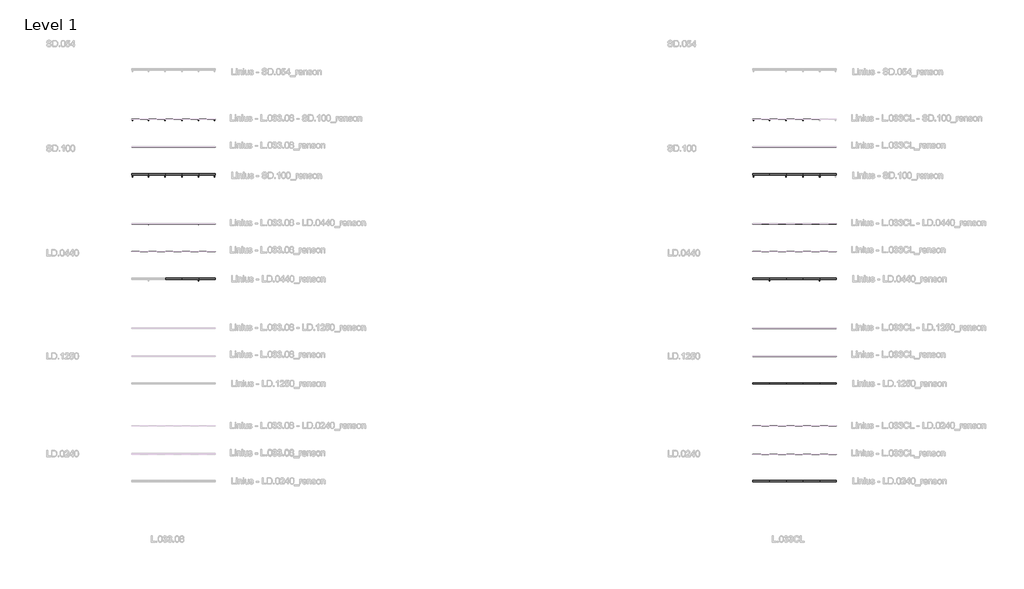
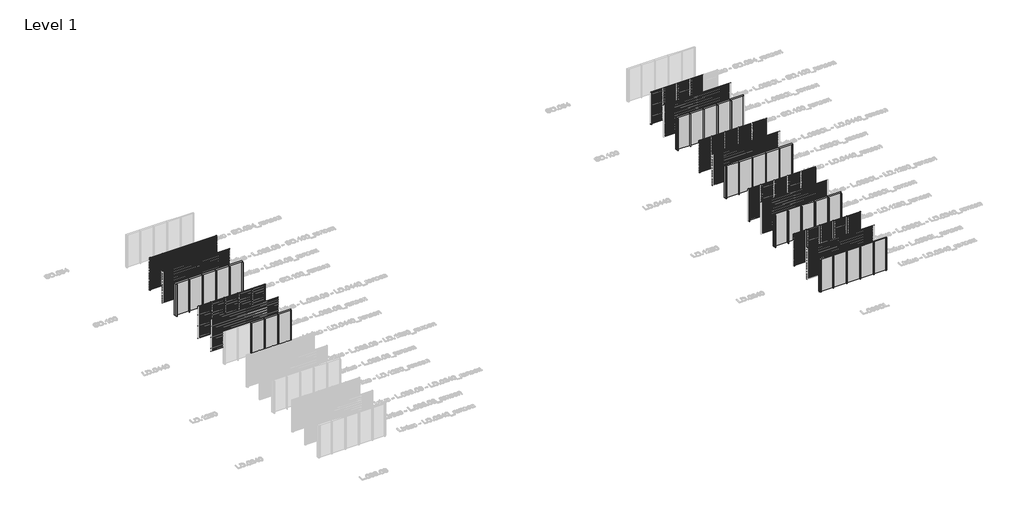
# One storey, part 5 of 507: 66 members, 63 plates.
"""IFC4 building model written with IfcOpenShell, lengths in millimetres."""

from ifc_helpers import new_model, si_unit, origin, origin_with_axes, place, context, project, spatial, polyline, outline, extrude, transform, mapped, element, save
from components import rectangular_mullion_8b77bd57, rectangular_mullion_2c867e25, rectangular_mullion_7803f5c4, rectangular_mullion_82152e2f, rectangular_mullion_6132f1f1, rectangular_mullion_8f153c19, rectangular_mullion_5b30f3fd, rectangular_mullion_5e0e8e0a, rectangular_mullion_d2d38772, rectangular_mullion_efb80f74, rectangular_mullion_aaa1fb1b, rectangular_mullion_ea9d012c, empty_system_panel_empty_aabbdda4

model = new_model("IFC4")

# Units and contexts
model_context = context("Model", 3, world=origin())
ifc_project = project(units=[si_unit("LENGTHUNIT", "METRE", prefix="MILLI")], contexts=[model_context])

# Site, building, storey
site = spatial("IfcSite", under=ifc_project)
building = spatial("IfcBuilding", under=site)
storey = spatial("IfcBuildingStorey", under=building, Name="Level 1", Elevation=0.0)

# Members
placement = place(None, origin())
rectangular_mullion_shape = rectangular_mullion_8b77bd57(model_context)
element("IfcMember", 1, ObjectType="Rectangular Mullion : SD.100_renson", at=placement, inside=storey, context=model_context, shape_type="MappedRepresentation", body=[
    mapped(rectangular_mullion_shape, transform((136366.6208097, 24981.0540136, 0.0), x_axis=(-1.0, 0.0, 0.0), y_axis=(0.0, 1.0, 0.0), z_axis=(0.0, 0.0, -1.0))),
])
element("IfcMember", 2, ObjectType="Rectangular Mullion : SD.100_renson", at=placement, inside=storey, context=model_context, shape_type="MappedRepresentation", body=[
    mapped(rectangular_mullion_shape, transform((135166.6208099, 24981.0540136, 0.0), x_axis=(-1.0, 0.0, 0.0), y_axis=(0.0, 1.0, 0.0), z_axis=(0.0, 0.0, -1.0))),
])
element("IfcMember", 3, ObjectType="Rectangular Mullion : SD.100_renson", at=placement, inside=storey, context=model_context, shape_type="MappedRepresentation", body=[
    mapped(rectangular_mullion_shape, transform((137566.6208096, 24981.0540136, 0.0), x_axis=(-1.0, 0.0, 0.0), y_axis=(0.0, 1.0, 0.0), z_axis=(0.0, 0.0, -1.0))),
])
element("IfcMember", 4, ObjectType="Rectangular Mullion : SD.100_renson", at=placement, inside=storey, context=model_context, shape_type="MappedRepresentation", body=[
    mapped(rectangular_mullion_shape, transform((138766.6208095, 24981.0540136, 0.0), x_axis=(-1.0, 0.0, 0.0), y_axis=(0.0, 1.0, 0.0), z_axis=(0.0, 0.0, -1.0))),
])
element("IfcMember", 5, ObjectType="Rectangular Mullion : SD.100_renson", at=placement, inside=storey, context=model_context, shape_type="MappedRepresentation", body=[
    mapped(rectangular_mullion_shape, transform((138766.6208095, 29024.0540136, 0.0), x_axis=(-1.0, 0.0, 0.0), y_axis=(0.0, 1.0, 0.0), z_axis=(0.0, 0.0, -1.0))),
])
element("IfcMember", 6, ObjectType="Rectangular Mullion : SD.100_renson", at=placement, inside=storey, context=model_context, shape_type="MappedRepresentation", body=[
    mapped(rectangular_mullion_shape, transform((137566.6208096, 29024.0540136, 0.0), x_axis=(-1.0, 0.0, 0.0), y_axis=(0.0, 1.0, 0.0), z_axis=(0.0, 0.0, -1.0))),
])
element("IfcMember", 7, ObjectType="Rectangular Mullion : SD.100_renson", at=placement, inside=storey, context=model_context, shape_type="MappedRepresentation", body=[
    mapped(rectangular_mullion_shape, transform((136366.6208097, 29024.0540136, 0.0), x_axis=(-1.0, 0.0, 0.0), y_axis=(0.0, 1.0, 0.0), z_axis=(0.0, 0.0, -1.0))),
])
element("IfcMember", 8, ObjectType="Rectangular Mullion : SD.100_renson", at=placement, inside=storey, context=model_context, shape_type="MappedRepresentation", body=[
    mapped(rectangular_mullion_shape, transform((135166.6208099, 29024.0540136, 0.0), x_axis=(-1.0, 0.0, 0.0), y_axis=(0.0, 1.0, 0.0), z_axis=(0.0, 0.0, -1.0))),
])
element("IfcMember", 9, ObjectType="Rectangular Mullion : SD.100_renson", at=placement, inside=storey, context=model_context, shape_type="MappedRepresentation", body=[
    mapped(rectangular_mullion_shape, transform((182066.6208097, 29025.0540136, 0.0), x_axis=(-1.0, 0.0, 0.0), y_axis=(0.0, 1.0, 0.0), z_axis=(0.0, 0.0, -1.0))),
])
element("IfcMember", 10, ObjectType="Rectangular Mullion : SD.100_renson", at=placement, inside=storey, context=model_context, shape_type="MappedRepresentation", body=[
    mapped(rectangular_mullion_shape, transform((180866.6208097, 29025.0540136, 0.0), x_axis=(-1.0, 0.0, 0.0), y_axis=(0.0, 1.0, 0.0), z_axis=(0.0, 0.0, -1.0))),
])
element("IfcMember", 11, ObjectType="Rectangular Mullion : SD.100_renson", at=placement, inside=storey, context=model_context, shape_type="MappedRepresentation", body=[
    mapped(rectangular_mullion_shape, transform((179666.6208097, 29025.0540136, 0.0), x_axis=(-1.0, 0.0, 0.0), y_axis=(0.0, 1.0, 0.0), z_axis=(0.0, 0.0, -1.0))),
])
element("IfcMember", 12, ObjectType="Rectangular Mullion : SD.100_renson", at=placement, inside=storey, context=model_context, shape_type="MappedRepresentation", body=[
    mapped(rectangular_mullion_shape, transform((180866.6208097, 24981.0540136, 0.0), x_axis=(-1.0, 0.0, 0.0), y_axis=(0.0, 1.0, 0.0), z_axis=(0.0, 0.0, -1.0))),
])
element("IfcMember", 13, ObjectType="Rectangular Mullion : SD.100_renson", at=placement, inside=storey, context=model_context, shape_type="MappedRepresentation", body=[
    mapped(rectangular_mullion_shape, transform((179666.6208099, 24981.0540136, 0.0), x_axis=(-1.0, 0.0, 0.0), y_axis=(0.0, 1.0, 0.0), z_axis=(0.0, 0.0, -1.0))),
])
element("IfcMember", 14, ObjectType="Rectangular Mullion : SD.100_renson", at=placement, inside=storey, context=model_context, shape_type="MappedRepresentation", body=[
    mapped(rectangular_mullion_shape, transform((182066.6208096, 24981.0540136, 0.0), x_axis=(-1.0, 0.0, 0.0), y_axis=(0.0, 1.0, 0.0), z_axis=(0.0, 0.0, -1.0))),
])
element("IfcMember", 15, ObjectType="Rectangular Mullion : SD.100_renson", at=placement, inside=storey, context=model_context, shape_type="MappedRepresentation", body=[
    mapped(rectangular_mullion_shape, transform((183266.6208095, 24981.0540136, 0.0), x_axis=(-1.0, 0.0, 0.0), y_axis=(0.0, 1.0, 0.0), z_axis=(0.0, 0.0, -1.0))),
])
rectangular_mullion_2_shape = rectangular_mullion_2c867e25(model_context)
element("IfcMember", 16, ObjectType="Rectangular Mullion : LD.0440_renson", at=placement, inside=storey, context=model_context, shape_type="MappedRepresentation", body=[
    mapped(rectangular_mullion_2_shape, transform((136366.6208097, 17481.0540136, 0.0), x_axis=(-1.0, 0.0, 0.0), y_axis=(0.0, 1.0, 0.0), z_axis=(0.0, 0.0, -1.0))),
])
element("IfcMember", 17, ObjectType="Rectangular Mullion : LD.0440_renson", at=placement, inside=storey, context=model_context, shape_type="MappedRepresentation", body=[
    mapped(rectangular_mullion_2_shape, transform((137566.6208096, 17481.0540136, 0.0), x_axis=(-1.0, 0.0, 0.0), y_axis=(0.0, 1.0, 0.0), z_axis=(0.0, 0.0, -1.0))),
])
element("IfcMember", 18, ObjectType="Rectangular Mullion : LD.0440_renson", at=placement, inside=storey, context=model_context, shape_type="MappedRepresentation", body=[
    mapped(rectangular_mullion_2_shape, transform((138766.6208095, 17481.0540136, 0.0), x_axis=(-1.0, 0.0, 0.0), y_axis=(0.0, 1.0, 0.0), z_axis=(0.0, 0.0, -1.0))),
])
element("IfcMember", 19, ObjectType="Rectangular Mullion : LD.0440_renson", at=placement, inside=storey, context=model_context, shape_type="MappedRepresentation", body=[
    mapped(rectangular_mullion_2_shape, transform((138766.6208095, 21524.0540136, 0.0), x_axis=(-1.0, 0.0, 0.0), y_axis=(0.0, 1.0, 0.0), z_axis=(0.0, 0.0, -1.0))),
])
element("IfcMember", 20, ObjectType="Rectangular Mullion : LD.0440_renson", at=placement, inside=storey, context=model_context, shape_type="MappedRepresentation", body=[
    mapped(rectangular_mullion_2_shape, transform((137566.6208096, 21524.0540136, 0.0), x_axis=(-1.0, 0.0, 0.0), y_axis=(0.0, 1.0, 0.0), z_axis=(0.0, 0.0, -1.0))),
])
element("IfcMember", 21, ObjectType="Rectangular Mullion : LD.0440_renson", at=placement, inside=storey, context=model_context, shape_type="MappedRepresentation", body=[
    mapped(rectangular_mullion_2_shape, transform((136366.6208097, 21524.0540136, 0.0), x_axis=(-1.0, 0.0, 0.0), y_axis=(0.0, 1.0, 0.0), z_axis=(0.0, 0.0, -1.0))),
])
element("IfcMember", 22, ObjectType="Rectangular Mullion : LD.0440_renson", at=placement, inside=storey, context=model_context, shape_type="MappedRepresentation", body=[
    mapped(rectangular_mullion_2_shape, transform((135166.6208099, 21524.0540136, 0.0), x_axis=(-1.0, 0.0, 0.0), y_axis=(0.0, 1.0, 0.0), z_axis=(0.0, 0.0, -1.0))),
])
element("IfcMember", 23, ObjectType="Rectangular Mullion : LD.0440_renson", at=placement, inside=storey, context=model_context, shape_type="MappedRepresentation", body=[
    mapped(rectangular_mullion_2_shape, transform((183266.6208097, 21525.0540136, 0.0), x_axis=(-1.0, 0.0, 0.0), y_axis=(0.0, 1.0, 0.0), z_axis=(0.0, 0.0, -1.0))),
])
element("IfcMember", 24, ObjectType="Rectangular Mullion : LD.0440_renson", at=placement, inside=storey, context=model_context, shape_type="MappedRepresentation", body=[
    mapped(rectangular_mullion_2_shape, transform((182066.6208097, 21525.0540136, 0.0), x_axis=(-1.0, 0.0, 0.0), y_axis=(0.0, 1.0, 0.0), z_axis=(0.0, 0.0, -1.0))),
])
element("IfcMember", 25, ObjectType="Rectangular Mullion : LD.0440_renson", at=placement, inside=storey, context=model_context, shape_type="MappedRepresentation", body=[
    mapped(rectangular_mullion_2_shape, transform((180866.6208097, 21525.0540136, 0.0), x_axis=(-1.0, 0.0, 0.0), y_axis=(0.0, 1.0, 0.0), z_axis=(0.0, 0.0, -1.0))),
])
element("IfcMember", 26, ObjectType="Rectangular Mullion : LD.0440_renson", at=placement, inside=storey, context=model_context, shape_type="MappedRepresentation", body=[
    mapped(rectangular_mullion_2_shape, transform((179666.6208097, 21525.0540136, 0.0), x_axis=(-1.0, 0.0, 0.0), y_axis=(0.0, 1.0, 0.0), z_axis=(0.0, 0.0, -1.0))),
])
element("IfcMember", 27, ObjectType="Rectangular Mullion : LD.0440_renson", at=placement, inside=storey, context=model_context, shape_type="MappedRepresentation", body=[
    mapped(rectangular_mullion_2_shape, transform((180866.6208097, 17481.0540136, 0.0), x_axis=(-1.0, 0.0, 0.0), y_axis=(0.0, 1.0, 0.0), z_axis=(0.0, 0.0, -1.0))),
])
element("IfcMember", 28, ObjectType="Rectangular Mullion : LD.0440_renson", at=placement, inside=storey, context=model_context, shape_type="MappedRepresentation", body=[
    mapped(rectangular_mullion_2_shape, transform((179666.6208099, 17481.0540136, 0.0), x_axis=(-1.0, 0.0, 0.0), y_axis=(0.0, 1.0, 0.0), z_axis=(0.0, 0.0, -1.0))),
])
element("IfcMember", 29, ObjectType="Rectangular Mullion : LD.0440_renson", at=placement, inside=storey, context=model_context, shape_type="MappedRepresentation", body=[
    mapped(rectangular_mullion_2_shape, transform((182066.6208096, 17481.0540136, 0.0), x_axis=(-1.0, 0.0, 0.0), y_axis=(0.0, 1.0, 0.0), z_axis=(0.0, 0.0, -1.0))),
])
element("IfcMember", 30, ObjectType="Rectangular Mullion : LD.0440_renson", at=placement, inside=storey, context=model_context, shape_type="MappedRepresentation", body=[
    mapped(rectangular_mullion_2_shape, transform((183266.6208095, 17481.0540136, 0.0), x_axis=(-1.0, 0.0, 0.0), y_axis=(0.0, 1.0, 0.0), z_axis=(0.0, 0.0, -1.0))),
])
rectangular_mullion_3_shape = rectangular_mullion_7803f5c4(model_context)
element("IfcMember", 31, ObjectType="Rectangular Mullion : LD.1250_renson", at=placement, inside=storey, context=model_context, shape_type="MappedRepresentation", body=[
    mapped(rectangular_mullion_3_shape, transform((183266.6208097, 14025.0540136, 0.0), x_axis=(-1.0, 0.0, 0.0), y_axis=(0.0, 1.0, 0.0), z_axis=(0.0, 0.0, -1.0))),
])
element("IfcMember", 32, ObjectType="Rectangular Mullion : LD.1250_renson", at=placement, inside=storey, context=model_context, shape_type="MappedRepresentation", body=[
    mapped(rectangular_mullion_3_shape, transform((182066.6208097, 14025.0540136, 0.0), x_axis=(-1.0, 0.0, 0.0), y_axis=(0.0, 1.0, 0.0), z_axis=(0.0, 0.0, -1.0))),
])
element("IfcMember", 33, ObjectType="Rectangular Mullion : LD.1250_renson", at=placement, inside=storey, context=model_context, shape_type="MappedRepresentation", body=[
    mapped(rectangular_mullion_3_shape, transform((180866.6208097, 14025.0540136, 0.0), x_axis=(-1.0, 0.0, 0.0), y_axis=(0.0, 1.0, 0.0), z_axis=(0.0, 0.0, -1.0))),
])
element("IfcMember", 34, ObjectType="Rectangular Mullion : LD.1250_renson", at=placement, inside=storey, context=model_context, shape_type="MappedRepresentation", body=[
    mapped(rectangular_mullion_3_shape, transform((179666.6208097, 14025.0540136, 0.0), x_axis=(-1.0, 0.0, 0.0), y_axis=(0.0, 1.0, 0.0), z_axis=(0.0, 0.0, -1.0))),
])
element("IfcMember", 35, ObjectType="Rectangular Mullion : LD.1250_renson", at=placement, inside=storey, context=model_context, shape_type="MappedRepresentation", body=[
    mapped(rectangular_mullion_3_shape, transform((180866.6208097, 9981.0540136, 0.0), x_axis=(-1.0, 0.0, 0.0), y_axis=(0.0, 1.0, 0.0), z_axis=(0.0, 0.0, -1.0))),
])
element("IfcMember", 36, ObjectType="Rectangular Mullion : LD.1250_renson", at=placement, inside=storey, context=model_context, shape_type="MappedRepresentation", body=[
    mapped(rectangular_mullion_3_shape, transform((179666.6208099, 9981.0540136, 0.0), x_axis=(-1.0, 0.0, 0.0), y_axis=(0.0, 1.0, 0.0), z_axis=(0.0, 0.0, -1.0))),
])
element("IfcMember", 37, ObjectType="Rectangular Mullion : LD.1250_renson", at=placement, inside=storey, context=model_context, shape_type="MappedRepresentation", body=[
    mapped(rectangular_mullion_3_shape, transform((182066.6208096, 9981.0540136, 0.0), x_axis=(-1.0, 0.0, 0.0), y_axis=(0.0, 1.0, 0.0), z_axis=(0.0, 0.0, -1.0))),
])
element("IfcMember", 38, ObjectType="Rectangular Mullion : LD.1250_renson", at=placement, inside=storey, context=model_context, shape_type="MappedRepresentation", body=[
    mapped(rectangular_mullion_3_shape, transform((183266.6208095, 9981.0540136, 0.0), x_axis=(-1.0, 0.0, 0.0), y_axis=(0.0, 1.0, 0.0), z_axis=(0.0, 0.0, -1.0))),
])
rectangular_mullion_4_shape = rectangular_mullion_82152e2f(model_context)
element("IfcMember", 39, ObjectType="Rectangular Mullion : LD.0240_renson", at=placement, inside=storey, context=model_context, shape_type="MappedRepresentation", body=[
    mapped(rectangular_mullion_4_shape, transform((180866.6208097, 2985.0270068, 0.0), x_axis=(-1.0, 0.0, 0.0), y_axis=(0.0, 1.0, 0.0), z_axis=(0.0, 0.0, -1.0))),
])
element("IfcMember", 40, ObjectType="Rectangular Mullion : LD.0240_renson", at=placement, inside=storey, context=model_context, shape_type="MappedRepresentation", body=[
    mapped(rectangular_mullion_4_shape, transform((179666.6208099, 2985.0270068, 0.0), x_axis=(-1.0, 0.0, 0.0), y_axis=(0.0, 1.0, 0.0), z_axis=(0.0, 0.0, -1.0))),
])
element("IfcMember", 41, ObjectType="Rectangular Mullion : LD.0240_renson", at=placement, inside=storey, context=model_context, shape_type="MappedRepresentation", body=[
    mapped(rectangular_mullion_4_shape, transform((182066.6208096, 2985.0270068, 0.0), x_axis=(-1.0, 0.0, 0.0), y_axis=(0.0, 1.0, 0.0), z_axis=(0.0, 0.0, -1.0))),
])
element("IfcMember", 42, ObjectType="Rectangular Mullion : LD.0240_renson", at=placement, inside=storey, context=model_context, shape_type="MappedRepresentation", body=[
    mapped(rectangular_mullion_4_shape, transform((183266.6208095, 2985.0270068, 0.0), x_axis=(-1.0, 0.0, 0.0), y_axis=(0.0, 1.0, 0.0), z_axis=(0.0, 0.0, -1.0))),
])
element("IfcMember", 43, ObjectType="Rectangular Mullion : LD.0240_renson", at=placement, inside=storey, context=model_context, shape_type="MappedRepresentation", body=[
    mapped(rectangular_mullion_4_shape, transform((183266.6208097, 7029.0270068, 0.0), x_axis=(-1.0, 0.0, 0.0), y_axis=(0.0, 1.0, 0.0), z_axis=(0.0, 0.0, -1.0))),
])
element("IfcMember", 44, ObjectType="Rectangular Mullion : LD.0240_renson", at=placement, inside=storey, context=model_context, shape_type="MappedRepresentation", body=[
    mapped(rectangular_mullion_4_shape, transform((182066.6208097, 7029.0270068, 0.0), x_axis=(-1.0, 0.0, 0.0), y_axis=(0.0, 1.0, 0.0), z_axis=(0.0, 0.0, -1.0))),
])
element("IfcMember", 45, ObjectType="Rectangular Mullion : LD.0240_renson", at=placement, inside=storey, context=model_context, shape_type="MappedRepresentation", body=[
    mapped(rectangular_mullion_4_shape, transform((180866.6208097, 7029.0270068, 0.0), x_axis=(-1.0, 0.0, 0.0), y_axis=(0.0, 1.0, 0.0), z_axis=(0.0, 0.0, -1.0))),
])
element("IfcMember", 46, ObjectType="Rectangular Mullion : LD.0240_renson", at=placement, inside=storey, context=model_context, shape_type="MappedRepresentation", body=[
    mapped(rectangular_mullion_4_shape, transform((179666.6208097, 7029.0270068, 0.0), x_axis=(-1.0, 0.0, 0.0), y_axis=(0.0, 1.0, 0.0), z_axis=(0.0, 0.0, -1.0))),
])
rectangular_mullion_5_shape = rectangular_mullion_6132f1f1(model_context)
element("IfcMember", 47, ObjectType="Rectangular Mullion : SD.100 - left_renson", at=placement, inside=storey, context=model_context, shape_type="MappedRepresentation", body=[
    mapped(rectangular_mullion_5_shape, transform((133966.6208097, 24981.0540136, 0.0), x_axis=(-1.0, 0.0, 0.0), y_axis=(0.0, 1.0, 0.0), z_axis=(0.0, 0.0, -1.0))),
])
element("IfcMember", 48, ObjectType="Rectangular Mullion : SD.100 - left_renson", at=placement, inside=storey, context=model_context, shape_type="MappedRepresentation", body=[
    mapped(rectangular_mullion_5_shape, transform((133966.6208097, 29024.0540136, 0.0), x_axis=(-1.0, 0.0, 0.0), y_axis=(0.0, 1.0, 0.0), z_axis=(0.0, 0.0, -1.0))),
])
element("IfcMember", 49, ObjectType="Rectangular Mullion : SD.100 - left_renson", at=placement, inside=storey, context=model_context, shape_type="MappedRepresentation", body=[
    mapped(rectangular_mullion_5_shape, transform((178466.6208097, 29025.0540136, 0.0), x_axis=(-1.0, 0.0, 0.0), y_axis=(0.0, 1.0, 0.0), z_axis=(0.0, 0.0, -1.0))),
])
element("IfcMember", 50, ObjectType="Rectangular Mullion : SD.100 - left_renson", at=placement, inside=storey, context=model_context, shape_type="MappedRepresentation", body=[
    mapped(rectangular_mullion_5_shape, transform((178466.6208097, 24981.0540136, 0.0), x_axis=(-1.0, 0.0, 0.0), y_axis=(0.0, 1.0, 0.0), z_axis=(0.0, 0.0, -1.0))),
])
rectangular_mullion_6_shape = rectangular_mullion_8f153c19(model_context)
element("IfcMember", 51, ObjectType="Rectangular Mullion : SD.100 - right_renson", at=placement, inside=storey, context=model_context, shape_type="MappedRepresentation", body=[
    mapped(rectangular_mullion_6_shape, transform((139966.6208097, 24981.0540136, 3000.0), x_axis=(1.0, 0.0, 0.0), y_axis=(0.0, 1.0, 0.0), z_axis=(0.0, 0.0, 1.0))),
])
element("IfcMember", 52, ObjectType="Rectangular Mullion : SD.100 - right_renson", at=placement, inside=storey, context=model_context, shape_type="MappedRepresentation", body=[
    mapped(rectangular_mullion_6_shape, transform((139966.6208097, 29024.0540136, 3000.0), x_axis=(1.0, 0.0, 0.0), y_axis=(0.0, 1.0, 0.0), z_axis=(0.0, 0.0, 1.0))),
])
rectangular_mullion_7_shape = rectangular_mullion_5b30f3fd(model_context)
element("IfcMember", 53, ObjectType="Rectangular Mullion : LD.0440 - left_renson", at=placement, inside=storey, context=model_context, shape_type="MappedRepresentation", body=[
    mapped(rectangular_mullion_7_shape, transform((178466.6208097, 21525.0540136, 0.0), x_axis=(-1.0, 0.0, 0.0), y_axis=(0.0, 1.0, 0.0), z_axis=(0.0, 0.0, -1.0))),
])
element("IfcMember", 54, ObjectType="Rectangular Mullion : LD.0440 - left_renson", at=placement, inside=storey, context=model_context, shape_type="MappedRepresentation", body=[
    mapped(rectangular_mullion_7_shape, transform((178466.6208097, 17481.0540136, 0.0), x_axis=(-1.0, 0.0, 0.0), y_axis=(0.0, 1.0, 0.0), z_axis=(0.0, 0.0, -1.0))),
])
rectangular_mullion_8_shape = rectangular_mullion_5e0e8e0a(model_context)
element("IfcMember", 55, ObjectType="Rectangular Mullion : LD.0440 - right_renson", at=placement, inside=storey, context=model_context, shape_type="MappedRepresentation", body=[
    mapped(rectangular_mullion_8_shape, transform((139966.6208097, 17481.0540136, 3000.0), x_axis=(1.0, 0.0, 0.0), y_axis=(0.0, 1.0, 0.0), z_axis=(0.0, 0.0, 1.0))),
])
element("IfcMember", 56, ObjectType="Rectangular Mullion : LD.0440 - right_renson", at=placement, inside=storey, context=model_context, shape_type="MappedRepresentation", body=[
    mapped(rectangular_mullion_8_shape, transform((139966.6208097, 21524.0540136, 3000.0), x_axis=(1.0, 0.0, 0.0), y_axis=(0.0, 1.0, 0.0), z_axis=(0.0, 0.0, 1.0))),
])
element("IfcMember", 57, ObjectType="Rectangular Mullion : LD.0440 - right_renson", at=placement, inside=storey, context=model_context, shape_type="MappedRepresentation", body=[
    mapped(rectangular_mullion_8_shape, transform((184466.6208097, 21525.0540136, 3000.0), x_axis=(1.0, 0.0, 0.0), y_axis=(0.0, 1.0, 0.0), z_axis=(0.0, 0.0, 1.0))),
])
element("IfcMember", 58, ObjectType="Rectangular Mullion : LD.0440 - right_renson", at=placement, inside=storey, context=model_context, shape_type="MappedRepresentation", body=[
    mapped(rectangular_mullion_8_shape, transform((184466.6208097, 17481.0540136, 3000.0), x_axis=(1.0, 0.0, 0.0), y_axis=(0.0, 1.0, 0.0), z_axis=(0.0, 0.0, 1.0))),
])
rectangular_mullion_9_shape = rectangular_mullion_d2d38772(model_context)
element("IfcMember", 59, ObjectType="Rectangular Mullion : LD.1250 - left_renson", at=placement, inside=storey, context=model_context, shape_type="MappedRepresentation", body=[
    mapped(rectangular_mullion_9_shape, transform((178466.6208097, 14025.0540136, 0.0), x_axis=(-1.0, 0.0, 0.0), y_axis=(0.0, 1.0, 0.0), z_axis=(0.0, 0.0, -1.0))),
])
element("IfcMember", 60, ObjectType="Rectangular Mullion : LD.1250 - left_renson", at=placement, inside=storey, context=model_context, shape_type="MappedRepresentation", body=[
    mapped(rectangular_mullion_9_shape, transform((178466.6208097, 9981.0540136, 0.0), x_axis=(-1.0, 0.0, 0.0), y_axis=(0.0, 1.0, 0.0), z_axis=(0.0, 0.0, -1.0))),
])
rectangular_mullion_10_shape = rectangular_mullion_efb80f74(model_context)
element("IfcMember", 61, ObjectType="Rectangular Mullion : LD.1250 - right_renson", at=placement, inside=storey, context=model_context, shape_type="MappedRepresentation", body=[
    mapped(rectangular_mullion_10_shape, transform((184466.6208097, 14025.0540136, 3000.0), x_axis=(1.0, 0.0, 0.0), y_axis=(0.0, 1.0, 0.0), z_axis=(0.0, 0.0, 1.0))),
])
element("IfcMember", 62, ObjectType="Rectangular Mullion : LD.1250 - right_renson", at=placement, inside=storey, context=model_context, shape_type="MappedRepresentation", body=[
    mapped(rectangular_mullion_10_shape, transform((184466.6208097, 9981.0540136, 3000.0), x_axis=(1.0, 0.0, 0.0), y_axis=(0.0, 1.0, 0.0), z_axis=(0.0, 0.0, 1.0))),
])
rectangular_mullion_11_shape = rectangular_mullion_aaa1fb1b(model_context)
element("IfcMember", 63, ObjectType="Rectangular Mullion : LD.0240 - left_renson", at=placement, inside=storey, context=model_context, shape_type="MappedRepresentation", body=[
    mapped(rectangular_mullion_11_shape, transform((178466.6208097, 2985.0270068, 0.0), x_axis=(-1.0, 0.0, 0.0), y_axis=(0.0, 1.0, 0.0), z_axis=(0.0, 0.0, -1.0))),
])
element("IfcMember", 64, ObjectType="Rectangular Mullion : LD.0240 - left_renson", at=placement, inside=storey, context=model_context, shape_type="MappedRepresentation", body=[
    mapped(rectangular_mullion_11_shape, transform((178466.6208097, 7029.0270068, 0.0), x_axis=(-1.0, 0.0, 0.0), y_axis=(0.0, 1.0, 0.0), z_axis=(0.0, 0.0, -1.0))),
])
rectangular_mullion_12_shape = rectangular_mullion_ea9d012c(model_context)
element("IfcMember", 65, ObjectType="Rectangular Mullion : LD.0240 - right_renson", at=placement, inside=storey, context=model_context, shape_type="MappedRepresentation", body=[
    mapped(rectangular_mullion_12_shape, transform((184466.6208097, 2985.0270068, 3000.0), x_axis=(1.0, 0.0, 0.0), y_axis=(0.0, 1.0, 0.0), z_axis=(0.0, 0.0, 1.0))),
])
element("IfcMember", 66, ObjectType="Rectangular Mullion : LD.0240 - right_renson", at=placement, inside=storey, context=model_context, shape_type="MappedRepresentation", body=[
    mapped(rectangular_mullion_12_shape, transform((184466.6208097, 7029.0270068, 3000.0), x_axis=(1.0, 0.0, 0.0), y_axis=(0.0, 1.0, 0.0), z_axis=(0.0, 0.0, 1.0))),
])

# Plates
element("IfcPlate", 67, ObjectType="Linius - L.033CL_renson", at=placement, inside=storey, context=model_context, shape_type="SweptSolid", body=[
    extrude(outline(polyline([(178466.6208097, 4988.0270068), (184466.6208097, 4988.0270068), (184466.6208097, 4986.0270068), (178466.6208097, 4986.0270068), (178466.6208097, 4988.0270068)])), origin_with_axes(), (0.0, 0.0, 1.0), 3000.0),
])
element("IfcPlate", 68, ObjectType="Linius - L.033.08_renson", at=placement, inside=storey, context=model_context, shape_type="SweptSolid", body=[
    extrude(outline(polyline([(133966.6208097, 29025.0540136), (135166.6208099, 29025.0540136), (135166.6208099, 29023.0540136), (133966.6208097, 29023.0540136), (133966.6208097, 29025.0540136)])), origin_with_axes(), (0.0, 0.0, 1.0), 3000.0),
])
element("IfcPlate", 69, ObjectType="Linius - L.033.08_renson", at=placement, inside=storey, context=model_context, shape_type="SweptSolid", body=[
    extrude(outline(polyline([(135166.6208099, 29025.0540136), (136366.6208097, 29025.0540136), (136366.6208097, 29023.0540136), (135166.6208099, 29023.0540136), (135166.6208099, 29025.0540136)])), origin_with_axes(), (0.0, 0.0, 1.0), 3000.0),
])
element("IfcPlate", 70, ObjectType="Linius - L.033.08_renson", at=placement, inside=storey, context=model_context, shape_type="SweptSolid", body=[
    extrude(outline(polyline([(136366.6208097, 29025.0540136), (137566.6208096, 29025.0540136), (137566.6208096, 29023.0540136), (136366.6208097, 29023.0540136), (136366.6208097, 29025.0540136)])), origin_with_axes(), (0.0, 0.0, 1.0), 3000.0),
])
element("IfcPlate", 71, ObjectType="Linius - L.033.08_renson", at=placement, inside=storey, context=model_context, shape_type="SweptSolid", body=[
    extrude(outline(polyline([(137566.6208096, 29025.0540136), (138766.6208095, 29025.0540136), (138766.6208095, 29023.0540136), (137566.6208096, 29023.0540136), (137566.6208096, 29025.0540136)])), origin_with_axes(), (0.0, 0.0, 1.0), 3000.0),
])
element("IfcPlate", 72, ObjectType="Linius - L.033.08_renson", at=placement, inside=storey, context=model_context, shape_type="SweptSolid", body=[
    extrude(outline(polyline([(133966.6208097, 27025.0540136), (139966.6208097, 27025.0540136), (139966.6208097, 27023.0540136), (133966.6208097, 27023.0540136), (133966.6208097, 27025.0540136)])), origin_with_axes(), (0.0, 0.0, 1.0), 3000.0),
])
element("IfcPlate", 73, ObjectType="Linius - L.033.08_renson", at=placement, inside=storey, context=model_context, shape_type="SweptSolid", body=[
    extrude(outline(polyline([(133966.6208097, 21525.0540136), (135166.6208099, 21525.0540136), (135166.6208099, 21523.0540136), (133966.6208097, 21523.0540136), (133966.6208097, 21525.0540136)])), origin_with_axes(), (0.0, 0.0, 1.0), 3000.0),
])
element("IfcPlate", 74, ObjectType="Linius - L.033.08_renson", at=placement, inside=storey, context=model_context, shape_type="SweptSolid", body=[
    extrude(outline(polyline([(135166.6208099, 21525.0540136), (136366.6208097, 21525.0540136), (136366.6208097, 21523.0540136), (135166.6208099, 21523.0540136), (135166.6208099, 21525.0540136)])), origin_with_axes(), (0.0, 0.0, 1.0), 3000.0),
])
element("IfcPlate", 75, ObjectType="Linius - L.033.08_renson", at=placement, inside=storey, context=model_context, shape_type="SweptSolid", body=[
    extrude(outline(polyline([(136366.6208097, 21525.0540136), (137566.6208096, 21525.0540136), (137566.6208096, 21523.0540136), (136366.6208097, 21523.0540136), (136366.6208097, 21525.0540136)])), origin_with_axes(), (0.0, 0.0, 1.0), 3000.0),
])
element("IfcPlate", 76, ObjectType="Linius - L.033.08_renson", at=placement, inside=storey, context=model_context, shape_type="SweptSolid", body=[
    extrude(outline(polyline([(137566.6208096, 21525.0540136), (138766.6208095, 21525.0540136), (138766.6208095, 21523.0540136), (137566.6208096, 21523.0540136), (137566.6208096, 21525.0540136)])), origin_with_axes(), (0.0, 0.0, 1.0), 3000.0),
])
element("IfcPlate", 77, ObjectType="Linius - L.033.08_renson", at=placement, inside=storey, context=model_context, shape_type="SweptSolid", body=[
    extrude(outline(polyline([(133966.6208097, 19525.0540136), (139966.6208097, 19525.0540136), (139966.6208097, 19523.0540136), (133966.6208097, 19523.0540136), (133966.6208097, 19525.0540136)])), origin_with_axes(), (0.0, 0.0, 1.0), 3000.0),
])
element("IfcPlate", 78, ObjectType="Linius - L.033.08_renson", at=placement, inside=storey, context=model_context, shape_type="SweptSolid", body=[
    extrude(outline(polyline([(138766.6208095, 21525.0540136), (139966.6208097, 21525.0540136), (139966.6208097, 21523.0540136), (138766.6208095, 21523.0540136), (138766.6208095, 21525.0540136)])), origin_with_axes(), (0.0, 0.0, 1.0), 3000.0),
])
element("IfcPlate", 79, ObjectType="Linius - L.033.08_renson", at=placement, inside=storey, context=model_context, shape_type="SweptSolid", body=[
    extrude(outline(polyline([(138766.6208095, 29025.0540136), (139966.6208097, 29025.0540136), (139966.6208097, 29023.0540136), (138766.6208095, 29023.0540136), (138766.6208095, 29025.0540136)])), origin_with_axes(), (0.0, 0.0, 1.0), 3000.0),
])
element("IfcPlate", 80, ObjectType="Linius - L.033CL_renson", at=placement, inside=storey, context=model_context, shape_type="SweptSolid", body=[
    extrude(outline(polyline([(178466.6208097, 29026.0540136), (179666.6208097, 29026.0540136), (179666.6208097, 29024.0540136), (178466.6208097, 29024.0540136), (178466.6208097, 29026.0540136)])), origin_with_axes(), (0.0, 0.0, 1.0), 3000.0),
])
element("IfcPlate", 81, ObjectType="Linius - L.033CL_renson", at=placement, inside=storey, context=model_context, shape_type="SweptSolid", body=[
    extrude(outline(polyline([(179666.6208097, 29026.0540136), (180866.6208097, 29026.0540136), (180866.6208097, 29024.0540136), (179666.6208097, 29024.0540136), (179666.6208097, 29026.0540136)])), origin_with_axes(), (0.0, 0.0, 1.0), 3000.0),
])
element("IfcPlate", 82, ObjectType="Linius - L.033CL_renson", at=placement, inside=storey, context=model_context, shape_type="SweptSolid", body=[
    extrude(outline(polyline([(180866.6208097, 29026.0540136), (182066.6208097, 29026.0540136), (182066.6208097, 29024.0540136), (180866.6208097, 29024.0540136), (180866.6208097, 29026.0540136)])), origin_with_axes(), (0.0, 0.0, 1.0), 3000.0),
])
element("IfcPlate", 83, ObjectType="Linius - L.033CL_renson", at=placement, inside=storey, context=model_context, shape_type="SweptSolid", body=[
    extrude(outline(polyline([(182066.6208097, 29026.0540136), (183266.6208097, 29026.0540136), (183266.6208097, 29024.0540136), (182066.6208097, 29024.0540136), (182066.6208097, 29026.0540136)])), origin_with_axes(), (0.0, 0.0, 1.0), 3000.0),
])
element("IfcPlate", 84, ObjectType="Linius - L.033CL_renson", at=placement, inside=storey, context=model_context, shape_type="SweptSolid", body=[
    extrude(outline(polyline([(178466.6208097, 27026.0540136), (184466.6208097, 27026.0540136), (184466.6208097, 27024.0540136), (178466.6208097, 27024.0540136), (178466.6208097, 27026.0540136)])), origin_with_axes(), (0.0, 0.0, 1.0), 3000.0),
])
element("IfcPlate", 85, ObjectType="Linius - L.033CL_renson", at=placement, inside=storey, context=model_context, shape_type="SweptSolid", body=[
    extrude(outline(polyline([(178466.6208097, 21526.0540136), (179666.6208097, 21526.0540136), (179666.6208097, 21524.0540136), (178466.6208097, 21524.0540136), (178466.6208097, 21526.0540136)])), origin_with_axes(), (0.0, 0.0, 1.0), 3000.0),
])
element("IfcPlate", 86, ObjectType="Linius - L.033CL_renson", at=placement, inside=storey, context=model_context, shape_type="SweptSolid", body=[
    extrude(outline(polyline([(179666.6208097, 21526.0540136), (180866.6208097, 21526.0540136), (180866.6208097, 21524.0540136), (179666.6208097, 21524.0540136), (179666.6208097, 21526.0540136)])), origin_with_axes(), (0.0, 0.0, 1.0), 3000.0),
])
element("IfcPlate", 87, ObjectType="Linius - L.033CL_renson", at=placement, inside=storey, context=model_context, shape_type="SweptSolid", body=[
    extrude(outline(polyline([(180866.6208097, 21526.0540136), (182066.6208097, 21526.0540136), (182066.6208097, 21524.0540136), (180866.6208097, 21524.0540136), (180866.6208097, 21526.0540136)])), origin_with_axes(), (0.0, 0.0, 1.0), 3000.0),
])
element("IfcPlate", 88, ObjectType="Linius - L.033CL_renson", at=placement, inside=storey, context=model_context, shape_type="SweptSolid", body=[
    extrude(outline(polyline([(182066.6208097, 21526.0540136), (183266.6208097, 21526.0540136), (183266.6208097, 21524.0540136), (182066.6208097, 21524.0540136), (182066.6208097, 21526.0540136)])), origin_with_axes(), (0.0, 0.0, 1.0), 3000.0),
])
element("IfcPlate", 89, ObjectType="Linius - L.033CL_renson", at=placement, inside=storey, context=model_context, shape_type="SweptSolid", body=[
    extrude(outline(polyline([(183266.6208097, 21526.0540136), (184466.6208097, 21526.0540136), (184466.6208097, 21524.0540136), (183266.6208097, 21524.0540136), (183266.6208097, 21526.0540136)])), origin_with_axes(), (0.0, 0.0, 1.0), 3000.0),
])
element("IfcPlate", 90, ObjectType="Linius - L.033CL_renson", at=placement, inside=storey, context=model_context, shape_type="SweptSolid", body=[
    extrude(outline(polyline([(178466.6208097, 19526.0540136), (184466.6208097, 19526.0540136), (184466.6208097, 19524.0540136), (178466.6208097, 19524.0540136), (178466.6208097, 19526.0540136)])), origin_with_axes(), (0.0, 0.0, 1.0), 3000.0),
])
element("IfcPlate", 91, ObjectType="Linius - L.033CL_renson", at=placement, inside=storey, context=model_context, shape_type="SweptSolid", body=[
    extrude(outline(polyline([(178466.6208097, 14026.0540136), (179666.6208097, 14026.0540136), (179666.6208097, 14024.0540136), (178466.6208097, 14024.0540136), (178466.6208097, 14026.0540136)])), origin_with_axes(), (0.0, 0.0, 1.0), 3000.0),
])
element("IfcPlate", 92, ObjectType="Linius - L.033CL_renson", at=placement, inside=storey, context=model_context, shape_type="SweptSolid", body=[
    extrude(outline(polyline([(179666.6208097, 14026.0540136), (180866.6208097, 14026.0540136), (180866.6208097, 14024.0540136), (179666.6208097, 14024.0540136), (179666.6208097, 14026.0540136)])), origin_with_axes(), (0.0, 0.0, 1.0), 3000.0),
])
element("IfcPlate", 93, ObjectType="Linius - L.033CL_renson", at=placement, inside=storey, context=model_context, shape_type="SweptSolid", body=[
    extrude(outline(polyline([(180866.6208097, 14026.0540136), (182066.6208097, 14026.0540136), (182066.6208097, 14024.0540136), (180866.6208097, 14024.0540136), (180866.6208097, 14026.0540136)])), origin_with_axes(), (0.0, 0.0, 1.0), 3000.0),
])
element("IfcPlate", 94, ObjectType="Linius - L.033CL_renson", at=placement, inside=storey, context=model_context, shape_type="SweptSolid", body=[
    extrude(outline(polyline([(182066.6208097, 14026.0540136), (183266.6208097, 14026.0540136), (183266.6208097, 14024.0540136), (182066.6208097, 14024.0540136), (182066.6208097, 14026.0540136)])), origin_with_axes(), (0.0, 0.0, 1.0), 3000.0),
])
element("IfcPlate", 95, ObjectType="Linius - L.033CL_renson", at=placement, inside=storey, context=model_context, shape_type="SweptSolid", body=[
    extrude(outline(polyline([(183266.6208097, 14026.0540136), (184466.6208097, 14026.0540136), (184466.6208097, 14024.0540136), (183266.6208097, 14024.0540136), (183266.6208097, 14026.0540136)])), origin_with_axes(), (0.0, 0.0, 1.0), 3000.0),
])
element("IfcPlate", 96, ObjectType="Linius - L.033CL_renson", at=placement, inside=storey, context=model_context, shape_type="SweptSolid", body=[
    extrude(outline(polyline([(178466.6208097, 12026.0540136), (184466.6208097, 12026.0540136), (184466.6208097, 12024.0540136), (178466.6208097, 12024.0540136), (178466.6208097, 12026.0540136)])), origin_with_axes(), (0.0, 0.0, 1.0), 3000.0),
])
element("IfcPlate", 97, ObjectType="Linius - L.033CL_renson", at=placement, inside=storey, context=model_context, shape_type="SweptSolid", body=[
    extrude(outline(polyline([(178466.6208097, 7030.0270068), (179666.6208097, 7030.0270068), (179666.6208097, 7028.0270068), (178466.6208097, 7028.0270068), (178466.6208097, 7030.0270068)])), origin_with_axes(), (0.0, 0.0, 1.0), 3000.0),
])
element("IfcPlate", 98, ObjectType="Linius - L.033CL_renson", at=placement, inside=storey, context=model_context, shape_type="SweptSolid", body=[
    extrude(outline(polyline([(179666.6208097, 7030.0270068), (180866.6208097, 7030.0270068), (180866.6208097, 7028.0270068), (179666.6208097, 7028.0270068), (179666.6208097, 7030.0270068)])), origin_with_axes(), (0.0, 0.0, 1.0), 3000.0),
])
element("IfcPlate", 99, ObjectType="Linius - L.033CL_renson", at=placement, inside=storey, context=model_context, shape_type="SweptSolid", body=[
    extrude(outline(polyline([(180866.6208097, 7030.0270068), (182066.6208097, 7030.0270068), (182066.6208097, 7028.0270068), (180866.6208097, 7028.0270068), (180866.6208097, 7030.0270068)])), origin_with_axes(), (0.0, 0.0, 1.0), 3000.0),
])
element("IfcPlate", 100, ObjectType="Linius - L.033CL_renson", at=placement, inside=storey, context=model_context, shape_type="SweptSolid", body=[
    extrude(outline(polyline([(182066.6208097, 7030.0270068), (183266.6208097, 7030.0270068), (183266.6208097, 7028.0270068), (182066.6208097, 7028.0270068), (182066.6208097, 7030.0270068)])), origin_with_axes(), (0.0, 0.0, 1.0), 3000.0),
])
element("IfcPlate", 101, ObjectType="Linius - L.033CL_renson", at=placement, inside=storey, context=model_context, shape_type="SweptSolid", body=[
    extrude(outline(polyline([(183266.6208097, 7030.0270068), (184466.6208097, 7030.0270068), (184466.6208097, 7028.0270068), (183266.6208097, 7028.0270068), (183266.6208097, 7030.0270068)])), origin_with_axes(), (0.0, 0.0, 1.0), 3000.0),
])
empty_system_panel_empty_shape = empty_system_panel_empty_aabbdda4(model_context)
element("IfcPlate", 102, ObjectType="Empty System Panel : Empty", at=placement, inside=storey, context=model_context, shape_type="MappedRepresentation", body=[
    mapped(empty_system_panel_empty_shape, transform((139366.6208096, 24981.0540136, 0.0), x_axis=(-1.0, 0.0, 0.0), y_axis=(0.0, -1.0, 0.0), z_axis=(0.0, 0.0, 1.0))),
])
element("IfcPlate", 103, ObjectType="Empty System Panel : Empty", at=placement, inside=storey, context=model_context, shape_type="MappedRepresentation", body=[
    mapped(empty_system_panel_empty_shape, transform((139366.6208096, 17481.0540136, 0.0), x_axis=(-1.0, 0.0, 0.0), y_axis=(0.0, -1.0, 0.0), z_axis=(0.0, 0.0, 1.0))),
])
element("IfcPlate", 104, ObjectType="Empty System Panel : Empty", at=placement, inside=storey, context=model_context, shape_type="MappedRepresentation", body=[
    mapped(empty_system_panel_empty_shape, transform((135766.6208098, 24981.0540136, 0.0), x_axis=(-1.0, 0.0, 0.0), y_axis=(0.0, -1.0, 0.0), z_axis=(0.0, 0.0, 1.0))),
])
element("IfcPlate", 105, ObjectType="Empty System Panel : Empty", at=placement, inside=storey, context=model_context, shape_type="MappedRepresentation", body=[
    mapped(empty_system_panel_empty_shape, transform((134566.6208098, 24981.0540136, 0.0), x_axis=(-1.0, 0.0, 0.0), y_axis=(0.0, -1.0, 0.0), z_axis=(0.0, 0.0, 1.0))),
])
element("IfcPlate", 106, ObjectType="Empty System Panel : Empty", at=placement, inside=storey, context=model_context, shape_type="MappedRepresentation", body=[
    mapped(empty_system_panel_empty_shape, transform((136966.6208097, 17481.0540136, 0.0), x_axis=(-1.0, 0.0, 0.0), y_axis=(0.0, -1.0, 0.0), z_axis=(0.0, 0.0, 1.0))),
])
element("IfcPlate", 107, ObjectType="Empty System Panel : Empty", at=placement, inside=storey, context=model_context, shape_type="MappedRepresentation", body=[
    mapped(empty_system_panel_empty_shape, transform((138166.6208096, 17481.0540136, 0.0), x_axis=(-1.0, 0.0, 0.0), y_axis=(0.0, -1.0, 0.0), z_axis=(0.0, 0.0, 1.0))),
])
element("IfcPlate", 108, ObjectType="Empty System Panel : Empty", at=placement, inside=storey, context=model_context, shape_type="MappedRepresentation", body=[
    mapped(empty_system_panel_empty_shape, transform((136966.6208097, 24981.0540136, 0.0), x_axis=(-1.0, 0.0, 0.0), y_axis=(0.0, -1.0, 0.0), z_axis=(0.0, 0.0, 1.0))),
])
element("IfcPlate", 109, ObjectType="Empty System Panel : Empty", at=placement, inside=storey, context=model_context, shape_type="MappedRepresentation", body=[
    mapped(empty_system_panel_empty_shape, transform((138166.6208096, 24981.0540136, 0.0), x_axis=(-1.0, 0.0, 0.0), y_axis=(0.0, -1.0, 0.0), z_axis=(0.0, 0.0, 1.0))),
])
element("IfcPlate", 110, ObjectType="Empty System Panel : Empty", at=placement, inside=storey, context=model_context, shape_type="MappedRepresentation", body=[
    mapped(empty_system_panel_empty_shape, transform((183866.6208096, 2985.0270068, 0.0), x_axis=(-1.0, 0.0, 0.0), y_axis=(0.0, -1.0, 0.0), z_axis=(0.0, 0.0, 1.0))),
])
element("IfcPlate", 111, ObjectType="Empty System Panel : Empty", at=placement, inside=storey, context=model_context, shape_type="MappedRepresentation", body=[
    mapped(empty_system_panel_empty_shape, transform((180266.6208098, 2985.0270068, 0.0), x_axis=(-1.0, 0.0, 0.0), y_axis=(0.0, -1.0, 0.0), z_axis=(0.0, 0.0, 1.0))),
])
element("IfcPlate", 112, ObjectType="Empty System Panel : Empty", at=placement, inside=storey, context=model_context, shape_type="MappedRepresentation", body=[
    mapped(empty_system_panel_empty_shape, transform((179066.6208098, 2985.0270068, 0.0), x_axis=(-1.0, 0.0, 0.0), y_axis=(0.0, -1.0, 0.0), z_axis=(0.0, 0.0, 1.0))),
])
element("IfcPlate", 113, ObjectType="Empty System Panel : Empty", at=placement, inside=storey, context=model_context, shape_type="MappedRepresentation", body=[
    mapped(empty_system_panel_empty_shape, transform((181466.6208097, 2985.0270068, 0.0), x_axis=(-1.0, 0.0, 0.0), y_axis=(0.0, -1.0, 0.0), z_axis=(0.0, 0.0, 1.0))),
])
element("IfcPlate", 114, ObjectType="Empty System Panel : Empty", at=placement, inside=storey, context=model_context, shape_type="MappedRepresentation", body=[
    mapped(empty_system_panel_empty_shape, transform((182666.6208096, 2985.0270068, 0.0), x_axis=(-1.0, 0.0, 0.0), y_axis=(0.0, -1.0, 0.0), z_axis=(0.0, 0.0, 1.0))),
])
element("IfcPlate", 115, ObjectType="Empty System Panel : Empty", at=placement, inside=storey, context=model_context, shape_type="MappedRepresentation", body=[
    mapped(empty_system_panel_empty_shape, transform((183866.6208096, 24981.0540136, 0.0), x_axis=(-1.0, 0.0, 0.0), y_axis=(0.0, -1.0, 0.0), z_axis=(0.0, 0.0, 1.0))),
])
element("IfcPlate", 116, ObjectType="Empty System Panel : Empty", at=placement, inside=storey, context=model_context, shape_type="MappedRepresentation", body=[
    mapped(empty_system_panel_empty_shape, transform((183866.6208096, 17481.0540136, 0.0), x_axis=(-1.0, 0.0, 0.0), y_axis=(0.0, -1.0, 0.0), z_axis=(0.0, 0.0, 1.0))),
])
element("IfcPlate", 117, ObjectType="Empty System Panel : Empty", at=placement, inside=storey, context=model_context, shape_type="MappedRepresentation", body=[
    mapped(empty_system_panel_empty_shape, transform((183866.6208096, 9981.0540136, 0.0), x_axis=(-1.0, 0.0, 0.0), y_axis=(0.0, -1.0, 0.0), z_axis=(0.0, 0.0, 1.0))),
])
element("IfcPlate", 118, ObjectType="Empty System Panel : Empty", at=placement, inside=storey, context=model_context, shape_type="MappedRepresentation", body=[
    mapped(empty_system_panel_empty_shape, transform((180266.6208098, 24981.0540136, 0.0), x_axis=(-1.0, 0.0, 0.0), y_axis=(0.0, -1.0, 0.0), z_axis=(0.0, 0.0, 1.0))),
])
element("IfcPlate", 119, ObjectType="Empty System Panel : Empty", at=placement, inside=storey, context=model_context, shape_type="MappedRepresentation", body=[
    mapped(empty_system_panel_empty_shape, transform((179066.6208098, 24981.0540136, 0.0), x_axis=(-1.0, 0.0, 0.0), y_axis=(0.0, -1.0, 0.0), z_axis=(0.0, 0.0, 1.0))),
])
element("IfcPlate", 120, ObjectType="Empty System Panel : Empty", at=placement, inside=storey, context=model_context, shape_type="MappedRepresentation", body=[
    mapped(empty_system_panel_empty_shape, transform((180266.6208098, 17481.0540136, 0.0), x_axis=(-1.0, 0.0, 0.0), y_axis=(0.0, -1.0, 0.0), z_axis=(0.0, 0.0, 1.0))),
])
element("IfcPlate", 121, ObjectType="Empty System Panel : Empty", at=placement, inside=storey, context=model_context, shape_type="MappedRepresentation", body=[
    mapped(empty_system_panel_empty_shape, transform((179066.6208098, 17481.0540136, 0.0), x_axis=(-1.0, 0.0, 0.0), y_axis=(0.0, -1.0, 0.0), z_axis=(0.0, 0.0, 1.0))),
])
element("IfcPlate", 122, ObjectType="Empty System Panel : Empty", at=placement, inside=storey, context=model_context, shape_type="MappedRepresentation", body=[
    mapped(empty_system_panel_empty_shape, transform((180266.6208098, 9981.0540136, 0.0), x_axis=(-1.0, 0.0, 0.0), y_axis=(0.0, -1.0, 0.0), z_axis=(0.0, 0.0, 1.0))),
])
element("IfcPlate", 123, ObjectType="Empty System Panel : Empty", at=placement, inside=storey, context=model_context, shape_type="MappedRepresentation", body=[
    mapped(empty_system_panel_empty_shape, transform((179066.6208098, 9981.0540136, 0.0), x_axis=(-1.0, 0.0, 0.0), y_axis=(0.0, -1.0, 0.0), z_axis=(0.0, 0.0, 1.0))),
])
element("IfcPlate", 124, ObjectType="Empty System Panel : Empty", at=placement, inside=storey, context=model_context, shape_type="MappedRepresentation", body=[
    mapped(empty_system_panel_empty_shape, transform((181466.6208097, 9981.0540136, 0.0), x_axis=(-1.0, 0.0, 0.0), y_axis=(0.0, -1.0, 0.0), z_axis=(0.0, 0.0, 1.0))),
])
element("IfcPlate", 125, ObjectType="Empty System Panel : Empty", at=placement, inside=storey, context=model_context, shape_type="MappedRepresentation", body=[
    mapped(empty_system_panel_empty_shape, transform((182666.6208096, 9981.0540136, 0.0), x_axis=(-1.0, 0.0, 0.0), y_axis=(0.0, -1.0, 0.0), z_axis=(0.0, 0.0, 1.0))),
])
element("IfcPlate", 126, ObjectType="Empty System Panel : Empty", at=placement, inside=storey, context=model_context, shape_type="MappedRepresentation", body=[
    mapped(empty_system_panel_empty_shape, transform((181466.6208097, 17481.0540136, 0.0), x_axis=(-1.0, 0.0, 0.0), y_axis=(0.0, -1.0, 0.0), z_axis=(0.0, 0.0, 1.0))),
])
element("IfcPlate", 127, ObjectType="Empty System Panel : Empty", at=placement, inside=storey, context=model_context, shape_type="MappedRepresentation", body=[
    mapped(empty_system_panel_empty_shape, transform((182666.6208096, 17481.0540136, 0.0), x_axis=(-1.0, 0.0, 0.0), y_axis=(0.0, -1.0, 0.0), z_axis=(0.0, 0.0, 1.0))),
])
element("IfcPlate", 128, ObjectType="Empty System Panel : Empty", at=placement, inside=storey, context=model_context, shape_type="MappedRepresentation", body=[
    mapped(empty_system_panel_empty_shape, transform((181466.6208097, 24981.0540136, 0.0), x_axis=(-1.0, 0.0, 0.0), y_axis=(0.0, -1.0, 0.0), z_axis=(0.0, 0.0, 1.0))),
])
element("IfcPlate", 129, ObjectType="Empty System Panel : Empty", at=placement, inside=storey, context=model_context, shape_type="MappedRepresentation", body=[
    mapped(empty_system_panel_empty_shape, transform((182666.6208096, 24981.0540136, 0.0), x_axis=(-1.0, 0.0, 0.0), y_axis=(0.0, -1.0, 0.0), z_axis=(0.0, 0.0, 1.0))),
])

save(model, "model.ifc")
